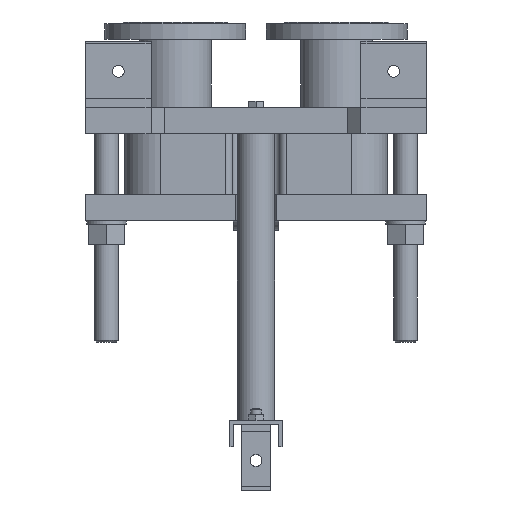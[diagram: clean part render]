
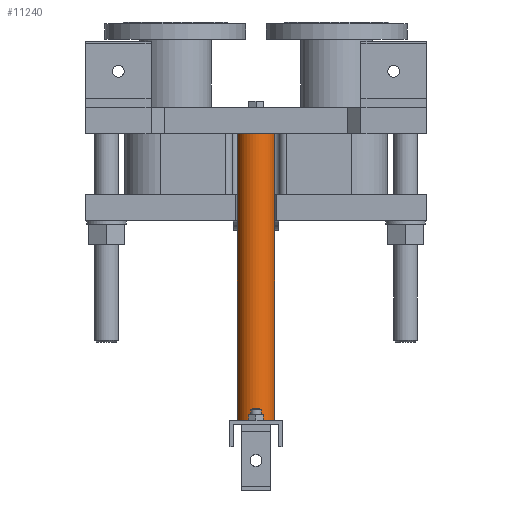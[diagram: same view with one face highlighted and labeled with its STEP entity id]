
A CAD part, front view. The second image highlights one B-rep face of the part: STEP entity #11240.
In plain terms, the highlighted cylindrical face has radius 28.5 mm (diameter 57 mm), a full revolution.
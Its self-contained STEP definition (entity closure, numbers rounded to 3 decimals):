
#781=LINE('',#22043,#1754);
#1754=VECTOR('',#14569,28.5);
#2333=CYLINDRICAL_SURFACE('',#12263,28.5);
#2995=FACE_OUTER_BOUND('',#3777,.T.);
#3777=EDGE_LOOP('',(#9013,#9014,#9015,#9016));
#4462=CIRCLE('',#12264,28.5);
#4463=CIRCLE('',#12265,28.5);
#5286=VERTEX_POINT('',#22040);
#5287=VERTEX_POINT('',#22042);
#6596=EDGE_CURVE('',#5286,#5286,#4462,.T.);
#6597=EDGE_CURVE('',#5286,#5287,#781,.T.);
#6598=EDGE_CURVE('',#5287,#5287,#4463,.T.);
#9013=ORIENTED_EDGE('',*,*,#6596,.F.);
#9014=ORIENTED_EDGE('',*,*,#6597,.T.);
#9015=ORIENTED_EDGE('',*,*,#6598,.T.);
#9016=ORIENTED_EDGE('',*,*,#6597,.F.);
#11240=ADVANCED_FACE('',(#2995),#2333,.T.);
#12263=AXIS2_PLACEMENT_3D('',#22039,#14565,#14566);
#12264=AXIS2_PLACEMENT_3D('',#22041,#14567,#14568);
#12265=AXIS2_PLACEMENT_3D('',#22044,#14570,#14571);
#14565=DIRECTION('center_axis',(0.,0.,
-1.));
#14566=DIRECTION('ref_axis',(-1.,0.,0.));
#14567=DIRECTION('center_axis',(0.,0.,
-1.));
#14568=DIRECTION('ref_axis',(-1.,0.,0.));
#14569=DIRECTION('',(0.,0.,1.));
#14570=DIRECTION('center_axis',(0.,0.,
-1.));
#14571=DIRECTION('ref_axis',(-1.,0.,0.));
#22039=CARTESIAN_POINT('Origin',(0.,215.,0.));
#22040=CARTESIAN_POINT('',(28.5,215.,-437.5));
#22041=CARTESIAN_POINT('Origin',(0.,215.,-437.5));
#22042=CARTESIAN_POINT('',(28.5,215.,0.));
#22043=CARTESIAN_POINT('',(28.5,215.,0.));
#22044=CARTESIAN_POINT('Origin',(0.,215.,0.));
